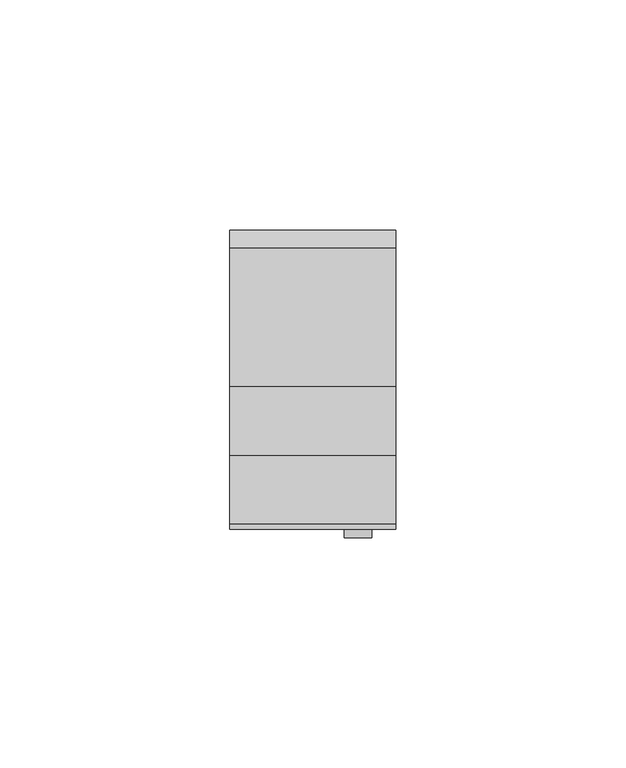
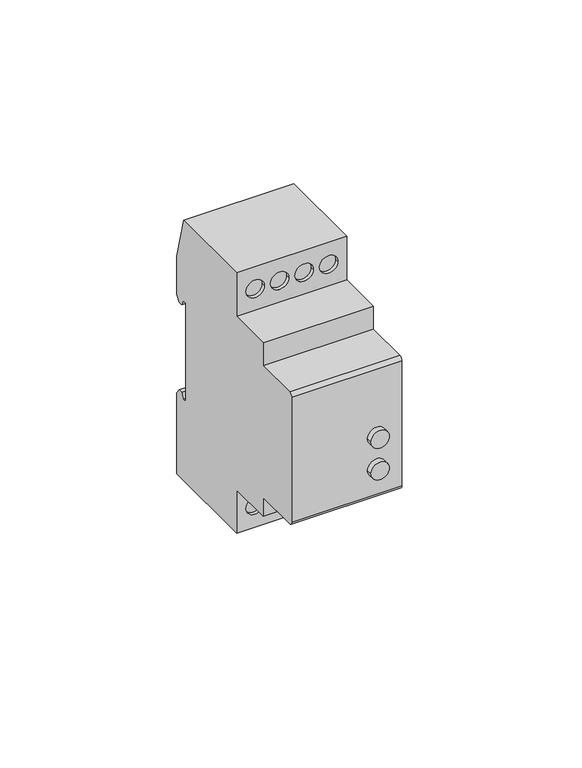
"""IFC4 building model written with IfcOpenShell, lengths in millimetres: proxy geometry, TDM_РЕЛЕ ТЕМПЕРАТУРЫ СЕРИИ РТ-820 : 16А."""

from ifc_helpers import new_model, si_unit, point, frame, frame_2d, origin, place, context, project, spatial, polyline, circle_curve, trimmed, segment, composite_curve, outline, extrude, source, transform, mapped, element, save
from ifc_brep_helpers import plane_surface, cylinder_surface, revolved_surface, advanced_brep


def electrical_equipment_303be9ae(model_context):
    return source(origin(), model_context, "Body", "SolidModel", [
        extrude(outline(composite_curve([segment(trimmed(circle_curve(frame_2d((-13.1562738, 9.7923783)), 3.0), [point((-13.1562738, 6.7923783))], [point((-13.1562738, 12.7923783))], False, "CARTESIAN"), True, "CONTINUOUS"), segment(trimmed(circle_curve(frame_2d((-13.1562738, 9.7923783)), 3.0), [point((-13.1562738, 12.7923783))], [point((-13.1562738, 6.7923783))], False, "CARTESIAN"), True, "CONTINUOUS")], self_intersect=False)), frame((0.0, -29.4413206, 0.0), z_axis=(0.0, 1.0, 0.0), x_axis=(0.0, 0.0, 1.0)), (0.0, 0.0, 1.0), 1.9413206),
        extrude(outline(composite_curve([segment(trimmed(circle_curve(frame_2d((-2.2174493, 9.7923783)), 3.0), [point((-2.2174493, 6.7923783))], [point((-2.2174493, 12.7923783))], False, "CARTESIAN"), True, "CONTINUOUS"), segment(trimmed(circle_curve(frame_2d((-2.2174493, 9.7923783)), 3.0), [point((-2.2174493, 12.7923783))], [point((-2.2174493, 6.7923783))], False, "CARTESIAN"), True, "CONTINUOUS")], self_intersect=False)), frame((0.0, -29.4413206, 0.0), z_axis=(0.0, 1.0, 0.0), x_axis=(0.0, 0.0, 1.0)), (0.0, 0.0, 1.0), 1.9413206),
        extrude(outline(polyline([(17.0, 16.6821204), (17.0, 5.0468966), (-17.0, 5.0468966), (-17.0, 16.6821204), (17.0, 16.6821204)])), frame((0.0, 0.0, -44.0625), z_axis=(0.0, 0.0, 1.0), x_axis=(1.0, 0.0, 0.0)), (0.0, 0.0, 1.0), 87.8126081),
        advanced_brep(
        [(18.0, 32.5, 17.0), (18.0, 33.6998687, 17.0), (18.0, 34.5867748, 15.0980238), (18.0, 36.1682219, 15.0980238), (18.0, 37.5, 17.0), (18.0, 37.5, 30.0836686), (18.0, 33.503181, 45.0), (18.0, 3.5, 45.0), (18.0, 3.5, 30.0), (18.0, -11.5, 30.0), (18.0, -11.5, 22.0), (18.0, -26.3777313, 22.0), (18.0, -27.5, 20.8777313), (18.0, -27.5, -22.3875602), (18.0, -26.3875602, -23.5), (18.0, -11.5, -23.5), (18.0, -11.5, -30.0), (18.0, 3.5, -30.0), (18.0, 3.5, -45.0), (18.0, 37.5, -45.0), (18.0, 37.5, -17.0), (18.0, 36.1682219, -15.0980238), (18.0, 34.5867748, -15.0980238), (18.0, 33.6998687, -17.0), (18.0, 32.5, -17.0), (-18.0, 32.5, 17.0), (-18.0, 32.5, -17.0), (-18.0, 33.6998687, -17.0), (-18.0, 34.5867748, -15.0980238), (-18.0, 36.1682219, -15.0980238), (-18.0, 37.5, -17.0), (-18.0, 37.5, -45.0), (-18.0, 3.5, -45.0), (-18.0, 3.5, -30.0), (-18.0, -11.5, -30.0), (-18.0, -11.5, -23.5), (-18.0, -26.3875602, -23.5), (-18.0, -27.5, -22.3875602), (-18.0, -27.5, 20.8777313), (-18.0, -26.3777313, 22.0), (-18.0, -11.5, 22.0), (-18.0, -11.5, 30.0), (-18.0, 3.5, 30.0), (-18.0, 3.5, 45.0), (-18.0, 33.503181, 45.0), (-18.0, 37.5, 30.0836686), (-18.0, 37.5, 17.0), (-18.0, 36.1682219, 15.0980238), (-18.0, 34.5867748, 15.0980238), (-18.0, 33.6998687, 17.0), (7.0, 6.1937398, -37.4385116), (1.0, 6.1937398, -37.4385116), (-7.0, 6.1937398, -37.4385116), (-1.0, 6.1937398, -37.4385116), (15.0, 6.1937398, -37.4385116), (9.0, 6.1937398, -37.4385116), (-15.0, 6.1937398, -37.4385116), (-9.0, 6.1937398, -37.4385116), (7.0, 6.1937398, 37.4385116), (1.0, 6.1937398, 37.4385116), (-7.0, 6.1937398, 37.4385116), (-1.0, 6.1937398, 37.4385116), (15.0, 6.1937398, 37.4385116), (9.0, 6.1937398, 37.4385116), (-15.0, 6.1937398, 37.4385116), (-9.0, 6.1937398, 37.4385116), (1.0, 3.5, 37.4385116), (7.0, 3.5, 37.4385116), (-1.0, 3.5, 37.4385116), (-7.0, 3.5, 37.4385116), (9.0, 3.5, 37.4385116), (15.0, 3.5, 37.4385116), (-9.0, 3.5, 37.4385116), (-15.0, 3.5, 37.4385116), (1.0, 3.5, -37.4385116), (7.0, 3.5, -37.4385116), (-1.0, 3.5, -37.4385116), (-7.0, 3.5, -37.4385116), (9.0, 3.5, -37.4385116), (15.0, 3.5, -37.4385116), (-9.0, 3.5, -37.4385116), (-15.0, 3.5, -37.4385116)],
        [
            (0, 1),
            (1, 2),
            (2, 3),
            (3, 4),
            (4, 5),
            (5, 6),
            (6, 7),
            (7, 8),
            (8, 9),
            (9, 10),
            (10, 11),
            (11, 12, circle_curve(frame((18.0, -26.3777313, 20.8777313), z_axis=(1.0, 0.0, 0.0), x_axis=(0.0, -1.0, 0.0)), 1.1222687)),
            (12, 13),
            (13, 14, circle_curve(frame((18.0, -26.3875602, -22.3875602), z_axis=(1.0, 0.0, 0.0), x_axis=(0.0, -1.0, 0.0)), 1.1124398)),
            (14, 15),
            (15, 16),
            (16, 17),
            (17, 18),
            (18, 19),
            (19, 20),
            (20, 21),
            (21, 22),
            (22, 23),
            (23, 24),
            (24, 0),
            (25, 26),
            (26, 27),
            (27, 28),
            (28, 29),
            (29, 30),
            (30, 31),
            (31, 32),
            (32, 33),
            (33, 34),
            (34, 35),
            (35, 36),
            (36, 37, circle_curve(frame((-18.0, -26.3875602, -22.3875602), z_axis=(-1.0, 0.0, 0.0), x_axis=(0.0, -1.0, 0.0)), 1.1124398)),
            (37, 38),
            (38, 39, circle_curve(frame((-18.0, -26.3777313, 20.8777313), z_axis=(-1.0, 0.0, 0.0), x_axis=(0.0, -1.0, 0.0)), 1.1222687)),
            (39, 40),
            (40, 41),
            (41, 42),
            (42, 43),
            (43, 44),
            (44, 45),
            (45, 46),
            (46, 47),
            (47, 48),
            (48, 49),
            (49, 25),
            (0, 25),
            (49, 1),
            (4, 46),
            (45, 5),
            (10, 40),
            (39, 11),
            (38, 12),
            (37, 13),
            (14, 36),
            (35, 15),
            (18, 32),
            (31, 19),
            (30, 20),
            (23, 27),
            (26, 24),
            (50, 51, circle_curve(frame((4.0, 6.1937398, -37.4385116), z_axis=(0.0, -1.0, 0.0), x_axis=(-1.0, 0.0, 0.0)), 3.0)),
            (51, 50, circle_curve(frame((4.0, 6.1937398, -37.4385116), z_axis=(0.0, -1.0, 0.0), x_axis=(-1.0, 0.0, 0.0)), 3.0)),
            (52, 53, circle_curve(frame((-4.0, 6.1937398, -37.4385116), z_axis=(0.0, -1.0, 0.0), x_axis=(1.0, 0.0, 0.0)), 3.0)),
            (53, 52, circle_curve(frame((-4.0, 6.1937398, -37.4385116), z_axis=(0.0, -1.0, 0.0), x_axis=(1.0, 0.0, 0.0)), 3.0)),
            (54, 55, circle_curve(frame((12.0, 6.1937398, -37.4385116), z_axis=(0.0, -1.0, 0.0), x_axis=(-1.0, 0.0, 0.0)), 3.0)),
            (55, 54, circle_curve(frame((12.0, 6.1937398, -37.4385116), z_axis=(0.0, -1.0, 0.0), x_axis=(-1.0, 0.0, 0.0)), 3.0)),
            (56, 57, circle_curve(frame((-12.0, 6.1937398, -37.4385116), z_axis=(0.0, -1.0, 0.0), x_axis=(1.0, 0.0, 0.0)), 3.0)),
            (57, 56, circle_curve(frame((-12.0, 6.1937398, -37.4385116), z_axis=(0.0, -1.0, 0.0), x_axis=(1.0, 0.0, 0.0)), 3.0)),
            (58, 59, circle_curve(frame((4.0, 6.1937398, 37.4385116), z_axis=(0.0, -1.0, 0.0), x_axis=(-1.0, 0.0, 0.0)), 3.0)),
            (59, 58, circle_curve(frame((4.0, 6.1937398, 37.4385116), z_axis=(0.0, -1.0, 0.0), x_axis=(-1.0, 0.0, 0.0)), 3.0)),
            (60, 61, circle_curve(frame((-4.0, 6.1937398, 37.4385116), z_axis=(0.0, -1.0, 0.0), x_axis=(1.0, 0.0, 0.0)), 3.0)),
            (61, 60, circle_curve(frame((-4.0, 6.1937398, 37.4385116), z_axis=(0.0, -1.0, 0.0), x_axis=(1.0, 0.0, 0.0)), 3.0)),
            (62, 63, circle_curve(frame((12.0, 6.1937398, 37.4385116), z_axis=(0.0, -1.0, 0.0), x_axis=(-1.0, 0.0, 0.0)), 3.0)),
            (63, 62, circle_curve(frame((12.0, 6.1937398, 37.4385116), z_axis=(0.0, -1.0, 0.0), x_axis=(-1.0, 0.0, 0.0)), 3.0)),
            (64, 65, circle_curve(frame((-12.0, 6.1937398, 37.4385116), z_axis=(0.0, -1.0, 0.0), x_axis=(1.0, 0.0, 0.0)), 3.0)),
            (65, 64, circle_curve(frame((-12.0, 6.1937398, 37.4385116), z_axis=(0.0, -1.0, 0.0), x_axis=(1.0, 0.0, 0.0)), 3.0)),
            (7, 43),
            (42, 8),
            (66, 67, circle_curve(frame((4.0, 3.5, 37.4385116), z_axis=(0.0, 1.0, 0.0), x_axis=(-1.0, 0.0, 0.0)), 3.0)),
            (67, 66, circle_curve(frame((4.0, 3.5, 37.4385116), z_axis=(0.0, 1.0, 0.0), x_axis=(-1.0, 0.0, 0.0)), 3.0)),
            (68, 69, circle_curve(frame((-4.0, 3.5, 37.4385116), z_axis=(0.0, 1.0, 0.0), x_axis=(1.0, 0.0, 0.0)), 3.0)),
            (69, 68, circle_curve(frame((-4.0, 3.5, 37.4385116), z_axis=(0.0, 1.0, 0.0), x_axis=(1.0, 0.0, 0.0)), 3.0)),
            (70, 71, circle_curve(frame((12.0, 3.5, 37.4385116), z_axis=(0.0, 1.0, 0.0), x_axis=(-1.0, 0.0, 0.0)), 3.0)),
            (71, 70, circle_curve(frame((12.0, 3.5, 37.4385116), z_axis=(0.0, 1.0, 0.0), x_axis=(-1.0, 0.0, 0.0)), 3.0)),
            (72, 73, circle_curve(frame((-12.0, 3.5, 37.4385116), z_axis=(0.0, 1.0, 0.0), x_axis=(1.0, 0.0, 0.0)), 3.0)),
            (73, 72, circle_curve(frame((-12.0, 3.5, 37.4385116), z_axis=(0.0, 1.0, 0.0), x_axis=(1.0, 0.0, 0.0)), 3.0)),
            (41, 9),
            (34, 16),
            (33, 17),
            (74, 75, circle_curve(frame((4.0, 3.5, -37.4385116), z_axis=(0.0, 1.0, 0.0), x_axis=(-1.0, 0.0, 0.0)), 3.0)),
            (75, 74, circle_curve(frame((4.0, 3.5, -37.4385116), z_axis=(0.0, 1.0, 0.0), x_axis=(-1.0, 0.0, 0.0)), 3.0)),
            (76, 77, circle_curve(frame((-4.0, 3.5, -37.4385116), z_axis=(0.0, 1.0, 0.0), x_axis=(1.0, 0.0, 0.0)), 3.0)),
            (77, 76, circle_curve(frame((-4.0, 3.5, -37.4385116), z_axis=(0.0, 1.0, 0.0), x_axis=(1.0, 0.0, 0.0)), 3.0)),
            (78, 79, circle_curve(frame((12.0, 3.5, -37.4385116), z_axis=(0.0, 1.0, 0.0), x_axis=(-1.0, 0.0, 0.0)), 3.0)),
            (79, 78, circle_curve(frame((12.0, 3.5, -37.4385116), z_axis=(0.0, 1.0, 0.0), x_axis=(-1.0, 0.0, 0.0)), 3.0)),
            (80, 81, circle_curve(frame((-12.0, 3.5, -37.4385116), z_axis=(0.0, 1.0, 0.0), x_axis=(1.0, 0.0, 0.0)), 3.0)),
            (81, 80, circle_curve(frame((-12.0, 3.5, -37.4385116), z_axis=(0.0, 1.0, 0.0), x_axis=(1.0, 0.0, 0.0)), 3.0)),
            (6, 44),
            (50, 75),
            (74, 51),
            (52, 77),
            (76, 53),
            (54, 79),
            (78, 55),
            (56, 81),
            (80, 57),
            (58, 67),
            (66, 59),
            (60, 69),
            (68, 61),
            (62, 71),
            (70, 63),
            (64, 73),
            (72, 65),
            (48, 2),
            (47, 3),
            (29, 21),
            (28, 22),
        ],
        [
            plane_surface(frame((18.0, 31.7632568, 17.0), z_axis=(1.0, 0.0, 0.0), x_axis=(0.0, 1.0, 0.0))),
            plane_surface(frame((-18.0, 31.7632568, 17.0), z_axis=(-1.0, 0.0, 0.0), x_axis=(0.0, -1.0, 0.0))),
            plane_surface(frame((18.0, 32.5, 17.0), z_axis=(0.0, 0.0, -1.0), x_axis=(-1.0, 0.0, 0.0))),
            plane_surface(frame((18.0, 37.5, 17.0), z_axis=(0.0, 1.0, 0.0), x_axis=(-1.0, 0.0, 0.0))),
            plane_surface(frame((18.0, -11.5, 22.0), z_axis=(0.0, 0.0, 1.0), x_axis=(-1.0, 0.0, 0.0))),
            cylinder_surface(frame((-18.0, -26.3777313, 20.8777313), z_axis=(1.0, 0.0, 0.0), x_axis=(0.0, -1.0, 0.0)), 1.1222687),
            plane_surface(frame((18.0, -27.5, 20.8777313), z_axis=(0.0, -1.0, 0.0), x_axis=(-1.0, 0.0, 0.0))),
            plane_surface(frame((18.0, -26.3875602, -23.5), z_axis=(0.0, 0.0, -1.0), x_axis=(-1.0, 0.0, 0.0))),
            plane_surface(frame((18.0, 3.5, -45.0), z_axis=(0.0, 0.0, -1.0), x_axis=(-1.0, 0.0, 0.0))),
            plane_surface(frame((18.0, 37.5, -45.0), z_axis=(0.0, 1.0, 0.0), x_axis=(-1.0, 0.0, 0.0))),
            plane_surface(frame((18.0, 33.6998687, -17.0), z_axis=(0.0, 0.0, 1.0), x_axis=(-1.0, 0.0, 0.0))),
            plane_surface(frame((18.0, 32.5, -17.0), z_axis=(0.0, 1.0, 0.0), x_axis=(-1.0, 0.0, 0.0))),
            cylinder_surface(frame((-18.0, -26.3875602, -22.3875602), z_axis=(1.0, 0.0, 0.0), x_axis=(0.0, -1.0, 0.0)), 1.1124398),
            plane_surface(frame((1.0, 6.1937398, -37.4385116), z_axis=(0.0, -1.0, 0.0), x_axis=(0.0, 0.0, 1.0))),
            plane_surface(frame((18.0, 3.5, 45.0), z_axis=(0.0, -1.0, 0.0), x_axis=(-1.0, 0.0, 0.0))),
            plane_surface(frame((18.0, 3.5, 30.0), z_axis=(0.0, 0.0, 1.0), x_axis=(-1.0, 0.0, 0.0))),
            plane_surface(frame((18.0, -11.5, 30.0), z_axis=(0.0, -1.0, 0.0), x_axis=(-1.0, 0.0, 0.0))),
            plane_surface(frame((18.0, -11.5, -23.5), z_axis=(0.0, -1.0, 0.0), x_axis=(-1.0, 0.0, 0.0))),
            plane_surface(frame((18.0, -11.5, -30.0), z_axis=(0.0, 0.0, -1.0), x_axis=(-1.0, 0.0, 0.0))),
            plane_surface(frame((18.0, 3.5, -30.0), z_axis=(0.0, -1.0, 0.0), x_axis=(-1.0, 0.0, 0.0))),
            plane_surface(frame((18.0, 33.503181, 45.0), z_axis=(0.0, 0.0, 1.0), x_axis=(-1.0, 0.0, 0.0))),
            revolved_surface(polyline([(1.0, 3.5, -37.4385116), (1.0, 6.1937398, -37.4385116)]), (4.0, 6.1937398, -37.4385116), (0.0, -1.0, 0.0)),
            revolved_surface(polyline([(-1.0, 3.5, -37.4385116), (-1.0, 6.1937398, -37.4385116)]), (-4.0, 0.0, -37.4385116), (0.0, -1.0, 0.0)),
            revolved_surface(polyline([(9.0, 3.5, -37.4385116), (9.0, 6.1937398, -37.4385116)]), (12.0, 0.0, -37.4385116), (0.0, -1.0, 0.0)),
            revolved_surface(polyline([(-9.0, 3.5, -37.4385116), (-9.0, 6.1937398, -37.4385116)]), (-12.0, 0.0, -37.4385116), (0.0, -1.0, 0.0)),
            revolved_surface(polyline([(1.0, 3.5, 37.4385116), (1.0, 6.1937398, 37.4385116)]), (4.0, 0.0, 37.4385116), (0.0, -1.0, 0.0)),
            revolved_surface(polyline([(-1.0, 3.5, 37.4385116), (-1.0, 6.1937398, 37.4385116)]), (-4.0, 0.0, 37.4385116), (0.0, -1.0, 0.0)),
            revolved_surface(polyline([(9.0, 3.5, 37.4385116), (9.0, 6.1937398, 37.4385116)]), (12.0, 0.0, 37.4385116), (0.0, -1.0, 0.0)),
            revolved_surface(polyline([(-9.0, 3.5, 37.4385116), (-9.0, 6.1937398, 37.4385116)]), (-12.0, 0.0, 37.4385116), (0.0, -1.0, 0.0)),
            plane_surface(frame((18.0, 33.6998687, 17.0), z_axis=(0.0, -0.9063077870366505, -0.42261826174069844), x_axis=(-1.0, 0.0, 0.0))),
            plane_surface(frame((18.0, 34.5867748, 15.0980238), z_axis=(0.0, 0.0, -1.0), x_axis=(-1.0, 0.0, 0.0))),
            plane_surface(frame((18.0, 36.1682219, 15.0980238), z_axis=(0.0, 0.8191520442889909, -0.5735764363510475), x_axis=(-1.0, 0.0, 0.0))),
            plane_surface(frame((18.0, 37.5, 30.0836686), z_axis=(0.0, 0.9659258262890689, 0.2588190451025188), x_axis=(-1.0, 0.0, 0.0))),
            plane_surface(frame((18.0, 37.5, -17.0), z_axis=(0.0, 0.8191520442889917, 0.5735764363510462), x_axis=(-1.0, 0.0, 0.0))),
            plane_surface(frame((18.0, 36.1682219, -15.0980238), z_axis=(0.0, 0.0, 1.0), x_axis=(-1.0, 0.0, 0.0))),
            plane_surface(frame((18.0, 34.5867748, -15.0980238), z_axis=(0.0, -0.9063077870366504, 0.42261826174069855), x_axis=(-1.0, 0.0, 0.0))),
        ],
        [
            (0, [[1, 2, 3, 4, 5, 6, 7, 8, 9, 10, 11, 12, 13, 14, 15, 16, 17, 18, 19, 20, 21, 22, 23, 24, 25]]),
            (1, [[26, 27, 28, 29, 30, 31, 32, 33, 34, 35, 36, 37, 38, 39, 40, 41, 42, 43, 44, 45, 46, 47, 48, 49, 50]]),
            (2, [[-1, 51, -50, 52]]),
            (3, [[-5, 53, -46, 54]]),
            (4, [[-11, 55, -40, 56]]),
            (5, [[-12, -56, -39, 57]]),
            (6, [[-13, -57, -38, 58]]),
            (7, [[-15, 59, -36, 60]]),
            (8, [[-19, 61, -32, 62]]),
            (9, [[-20, -62, -31, 63]]),
            (10, [[-24, 64, -27, 65]]),
            (11, [[-25, -65, -26, -51]]),
            (12, [[-14, -58, -37, -59]]),
            (13, [[66, 67]]),
            (13, [[68, 69]]),
            (13, [[70, 71]]),
            (13, [[72, 73]]),
            (13, [[74, 75]]),
            (13, [[76, 77]]),
            (13, [[78, 79]]),
            (13, [[80, 81]]),
            (14, [[-8, 82, -43, 83], [84, 85], [86, 87], [88, 89], [90, 91]]),
            (15, [[-9, -83, -42, 92]]),
            (16, [[-10, -92, -41, -55]]),
            (17, [[-16, -60, -35, 93]]),
            (18, [[-17, -93, -34, 94]]),
            (19, [[-18, -94, -33, -61], [95, 96], [97, 98], [99, 100], [101, 102]]),
            (20, [[-7, 103, -44, -82]]),
            (21, [[-66, 104, -95, 105]]),
            (21, [[-67, -105, -96, -104]]),
            (22, [[-68, 106, -97, 107]]),
            (22, [[-69, -107, -98, -106]]),
            (23, [[-70, 108, -99, 109]]),
            (23, [[-71, -109, -100, -108]]),
            (24, [[-72, 110, -101, 111]]),
            (24, [[-73, -111, -102, -110]]),
            (25, [[-74, 112, -84, 113]]),
            (25, [[-75, -113, -85, -112]]),
            (26, [[-76, 114, -86, 115]]),
            (26, [[-77, -115, -87, -114]]),
            (27, [[-78, 116, -88, 117]]),
            (27, [[-79, -117, -89, -116]]),
            (28, [[-80, 118, -90, 119]]),
            (28, [[-81, -119, -91, -118]]),
            (29, [[-2, -52, -49, 120]]),
            (30, [[-3, -120, -48, 121]]),
            (31, [[-4, -121, -47, -53]]),
            (32, [[-6, -54, -45, -103]]),
            (33, [[-21, -63, -30, 122]]),
            (34, [[-22, -122, -29, 123]]),
            (35, [[-23, -123, -28, -64]]),
        ],
    ),
    ])


if __name__ == "__main__":
    model = new_model("IFC4")
    model_context = context("Model", 3, world=origin())
    ifc_project = project(units=[si_unit("LENGTHUNIT", "METRE", prefix="MILLI")], contexts=[model_context])
    site = spatial("IfcSite", under=ifc_project)
    building = spatial("IfcBuilding", under=site)
    placement = place(None, origin())
    electrical_equipment_shape = electrical_equipment_303be9ae(model_context)
    element("IfcBuildingElementProxy", 1, Name="TDM_РЕЛЕ ТЕМПЕРАТУРЫ СЕРИИ РТ-820 : 16А", ObjectType="TDM_РЕЛЕ ТЕМПЕРАТУРЫ СЕРИИ РТ-820 : 16А", at=placement, inside=building, context=model_context, shape_type="MappedRepresentation", body=[
        mapped(electrical_equipment_shape, transform((0.0, 0.0, 0.0), x_axis=(1.0, 0.0, 0.0), y_axis=(0.0, 1.0, 0.0), z_axis=(0.0, 0.0, 1.0))),
    ])
    save(model, "model.ifc")
